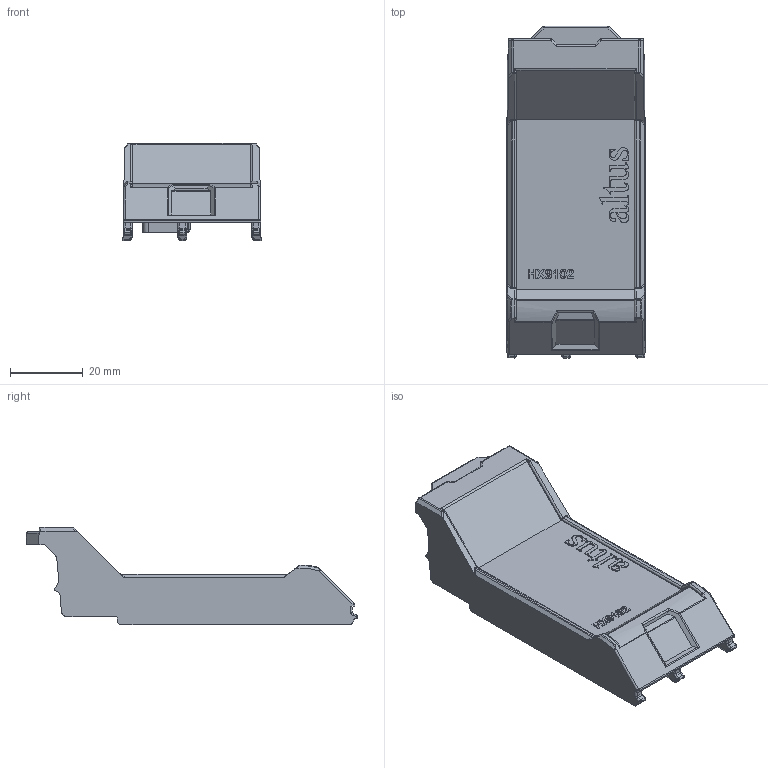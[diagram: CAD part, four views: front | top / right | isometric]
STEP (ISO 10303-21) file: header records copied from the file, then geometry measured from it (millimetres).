
FILE_DESCRIPTION (( 'STEP AP214' ), '1' );
FILE_NAME ('HX9102_20140115.STEP', '2014-01-15T11:15:04', ( 'ALTUS' ), ( '' ), 'SwSTEP 2.0', 'SolidWorks 2011', '' );
FILE_SCHEMA (( 'AUTOMOTIVE_DESIGN' ));
Length unit declared in the file: millimetre
Products named in the file (1): HX9102_20140115
Bounding box: 37.86 x 90.97 x 26.61 mm (x, y, z)
Volume: 18368.8 mm3; surface area: 14209.9 mm2
Topology: 1 solids, 1 shells, 545 faces, 1399 edges, 858 vertices
Faces by surface type: plane 189, cylinder 169, bspline 151, sphere 34, torus 2
Entity records: 26835 total; most frequent: CARTESIAN_POINT 9106, ORIENTED_EDGE 2772, DIRECTION 1961, EDGE_CURVE 1386, VERTEX_POINT 858, LINE 777, VECTOR 777, AXIS2_PLACEMENT_3D 592
